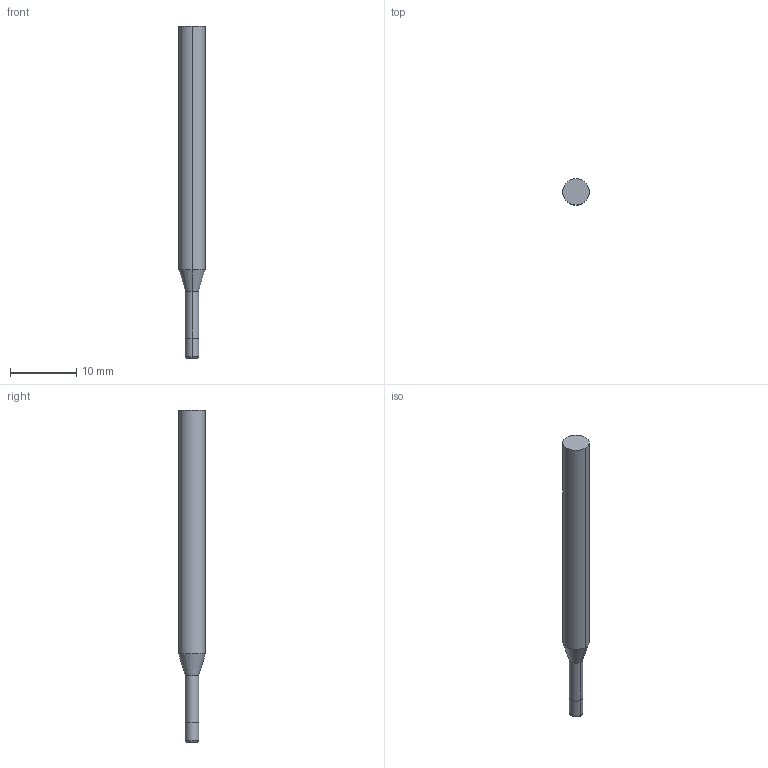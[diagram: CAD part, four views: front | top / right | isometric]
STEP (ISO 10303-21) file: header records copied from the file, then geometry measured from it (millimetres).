
FILE_DESCRIPTION((' '),'2;1');
FILE_NAME( '3MVSM0200R.20N5AH.stp', '2026-01-21T19:27:48', (' '), ('--- Datakit www.datakit.com---'), ' Datakit CrossCadWare V2025.4 Sep 19 2025', 'Mastercam 2027', ' ');
FILE_SCHEMA(('AUTOMOTIVE_DESIGN { 1 0 10303 214 1 1 1 1 }'));
Length unit declared in the file: inch
Products named in the file (1): 3MVSM0200R
Bounding box: 4 x 4 x 50 mm (x, y, z)
Volume: 517 mm3; surface area: 571.8 mm2
Topology: 1 solids, 1 shells, 12 faces, 22 edges, 12 vertices
Faces by surface type: cylinder 6, plane 2, torus 2, cone 2
Entity records: 377 total; most frequent: DIRECTION 70, CARTESIAN_POINT 51, ORIENTED_EDGE 44, AXIS2_PLACEMENT_3D 31, EDGE_CURVE 22, CIRCLE 14, VERTEX_POINT 12, EDGE_LOOP 12
